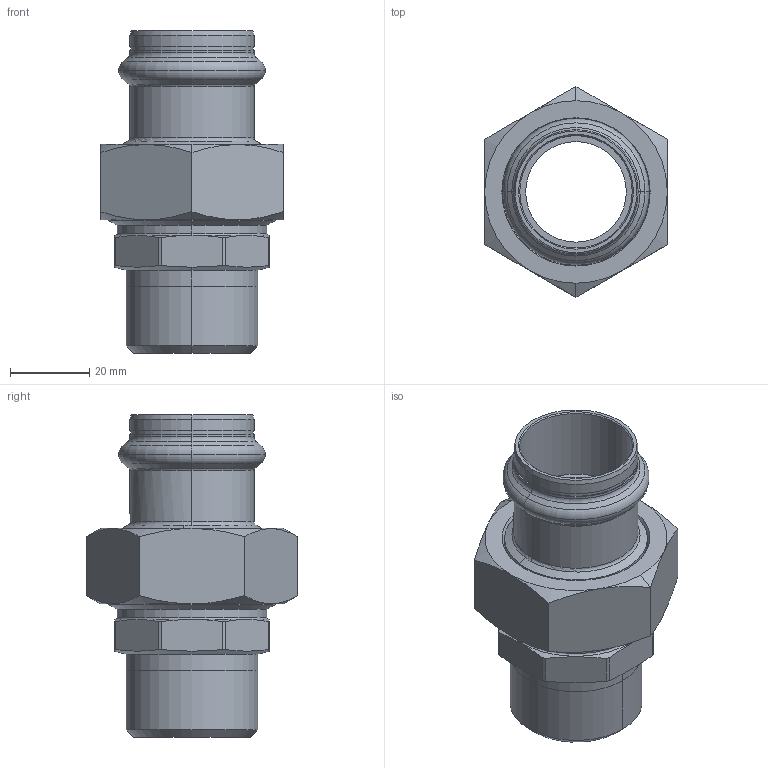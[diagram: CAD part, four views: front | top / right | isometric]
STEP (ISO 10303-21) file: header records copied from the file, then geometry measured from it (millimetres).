
FILE_DESCRIPTION(('CoCreate Modeling STEP Export'),'2;1');
FILE_NAME('8331GVW281.stp','2013-03-05T12:47:30',(''),(''),'CoCreate Modeling STEP processor for AP214 (Solid Model)','CoCreate Modeling 17.00A 17-Jun-2010 (C) Parametric Technology GmbH','');
FILE_SCHEMA(('AUTOMOTIVE_DESIGN { 1 0 10303 214 1 1 1 1 }'));
Length unit declared in the file: millimetre
Products named in the file (4): DRAAD; MOER; Wartelpuntstuk_C-PR_28x5.1; 8331GVW281
Assembly tree (3 placements, depth 2):
  8331GVW281
    Wartelpuntstuk_C-PR_28x5.1
    MOER
    DRAAD
Bounding box: 46 x 53.12 x 81.2 mm (x, y, z)
Volume: 43841.7 mm3; surface area: 24808.7 mm2
Topology: 3 solids, 3 shells, 136 faces, 316 edges, 190 vertices
Faces by surface type: cylinder 48, cone 48, plane 24, torus 16
Entity records: 5032 total; most frequent: CARTESIAN_POINT 2327, ORIENTED_EDGE 632, DIRECTION 394, EDGE_CURVE 316, VERTEX_POINT 190, AXIS2_PLACEMENT_3D 148, EDGE_LOOP 146, FACE_OUTER_BOUND 136
